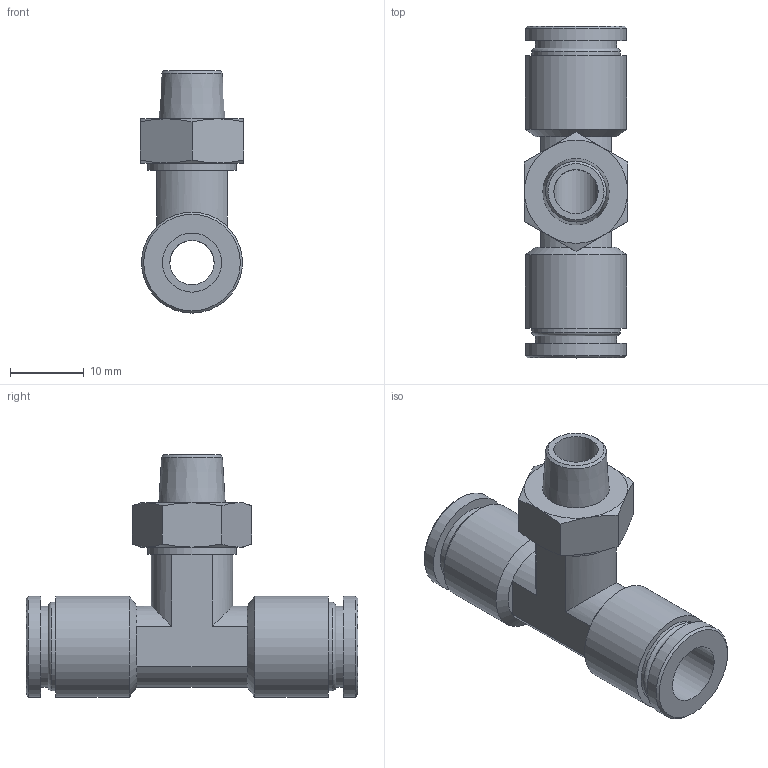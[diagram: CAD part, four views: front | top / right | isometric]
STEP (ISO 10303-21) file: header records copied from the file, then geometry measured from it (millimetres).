
FILE_DESCRIPTION(/* description */ (''),/* implementation_level */ '2;1');
FILE_NAME(/* name */ 'LXH31 0008 B1.stp',/* time_stamp */ '2026-04-22T20:55:18+02:00',/* author */ ('freju'),/* organization */ (''),/* preprocessor_version */ 'ST-DEVELOPER v20.1',/* originating_system */ 'Autodesk Inventor 2026',/* authorisation */ '');
FILE_SCHEMA (('AUTOMOTIVE_DESIGN { 1 0 10303 214 3 1 1 }'));
Length unit declared in the file: millimetre
Products named in the file (1): LXH31 0008 B1
Bounding box: 14 x 45 x 32.85 mm (x, y, z)
Volume: 5038.7 mm3; surface area: 4610.9 mm2
Topology: 1 solids, 1 shells, 62 faces, 133 edges, 81 vertices
Faces by surface type: plane 24, cylinder 18, cone 18, torus 2
Full cylindrical faces by diameter (mm): 6 x2, 8 x2, 11 x2, 12 x3, 13.7 x4
Entity records: 1707 total; most frequent: CARTESIAN_POINT 325, DIRECTION 302, ORIENTED_EDGE 266, EDGE_CURVE 133, AXIS2_PLACEMENT_3D 130, VERTEX_POINT 81, EDGE_LOOP 74, CIRCLE 63
